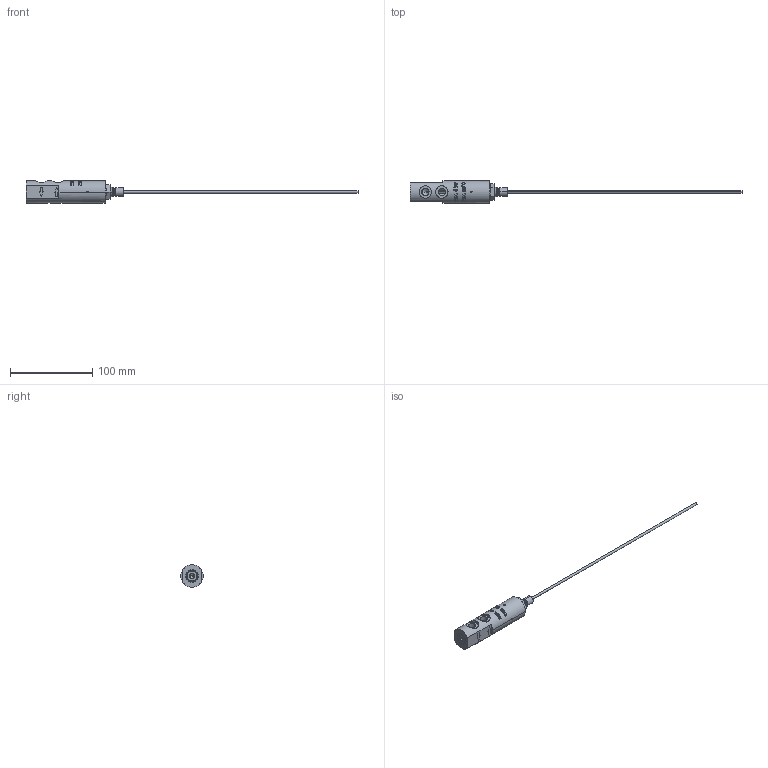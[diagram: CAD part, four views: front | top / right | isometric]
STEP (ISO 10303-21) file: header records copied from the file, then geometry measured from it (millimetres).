
FILE_DESCRIPTION((''),'2;1');
FILE_NAME('129632_ASM','2022-12-22T14:24:31',('SYSTEM'),(''),'CREO PARAMETRIC BY PTC INC, 2021284','CREO PARAMETRIC BY PTC INC, 2021284','');
FILE_SCHEMA(('AUTOMOTIVE_DESIGN { 1 0 10303 214 1 1 1 1 }'));
Products named in the file (2): 111931; 129632_ASM
Assembly tree (1 placements, depth 2):
  129632_ASM
    111931
Bounding box: 402.5 x 27 x 27 mm (x, y, z)
Volume: 46380.4 mm3; surface area: 30029.1 mm2
Topology: 4 solids, 16 shells, 1270 faces, 3348 edges, 2159 vertices
Faces by surface type: bspline 435, plane 341, cylinder 242, cone 117, torus 112, sphere 16, revolution 6, extrusion 1
Entity records: 85537 total; most frequent: CARTESIAN_POINT 39768, ORIENTED_EDGE 6620, DIRECTION 5016, PRESENTATION_STYLE_ASSIGNMENT 4282, STYLED_ITEM 3321, CURVE_STYLE 3317, EDGE_CURVE 3310, VERTEX_POINT 2159
